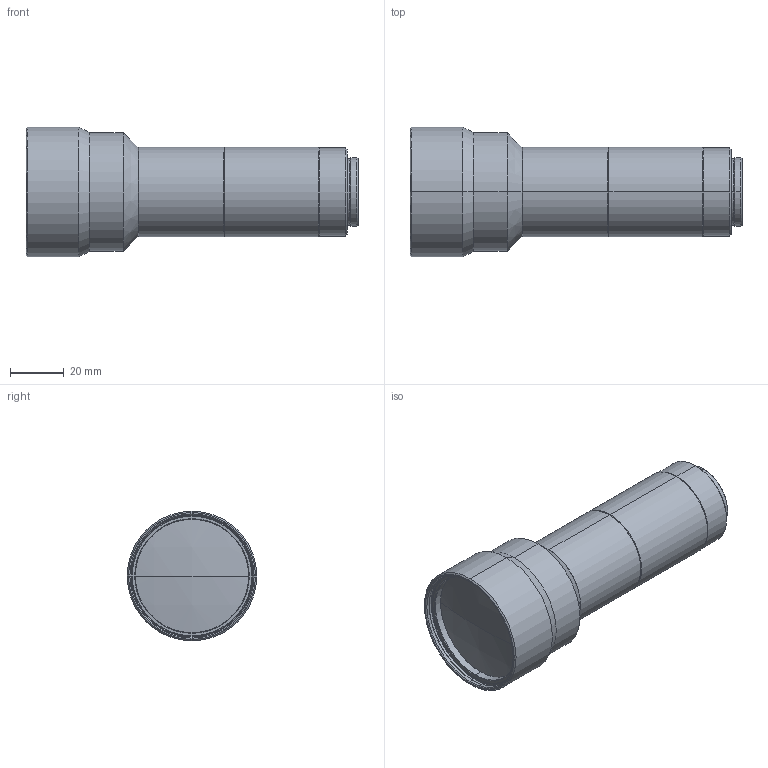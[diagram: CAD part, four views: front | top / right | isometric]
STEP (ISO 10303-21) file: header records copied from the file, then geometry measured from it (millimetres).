
FILE_DESCRIPTION (( 'STEP AP203' ), '1' );
FILE_NAME ('VS-TCM03-150.STEP', '2014-05-22T02:42:39', ( 'miura_vst' ), ( '' ), 'SwSTEP 2.0', 'SolidWorks 2014', '' );
FILE_SCHEMA (( 'CONFIG_CONTROL_DESIGN' ));
Length unit declared in the file: millimetre
Products named in the file (1): VS-TCM03-150
Bounding box: 122.97 x 48 x 48 mm (x, y, z)
Volume: 125085.7 mm3; surface area: 18965.9 mm2
Topology: 1 solids, 1 shells, 85 faces, 170 edges, 98 vertices
Faces by surface type: cone 44, cylinder 26, plane 11, sphere 4
Entity records: 2273 total; most frequent: DIRECTION 442, CARTESIAN_POINT 354, ORIENTED_EDGE 340, AXIS2_PLACEMENT_3D 186, EDGE_CURVE 170, CIRCLE 100, VERTEX_POINT 98, EDGE_LOOP 96
